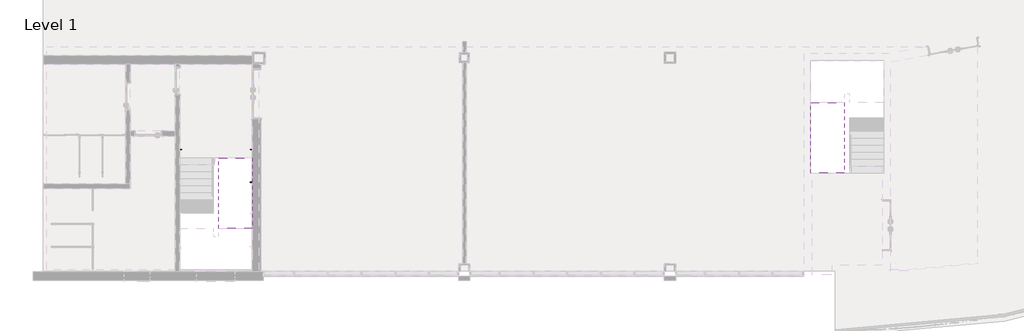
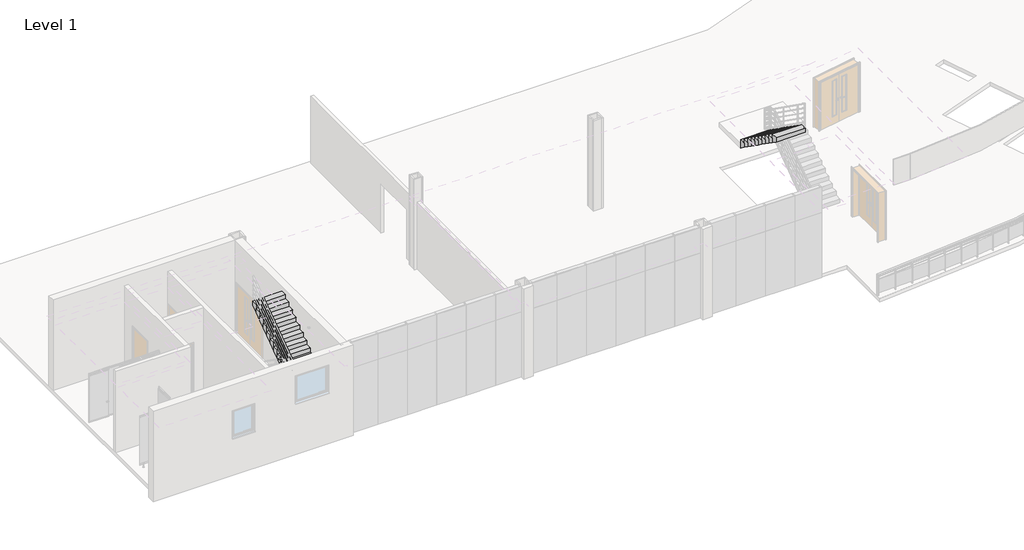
# One storey, part 10 of 12: 3 proxies, 2 stair flights.
"""IFC4 building model written with IfcOpenShell, lengths in millimetres."""

import ifcopenshell
import ifcopenshell.guid

model = None  # the IFC model being written
_history = None  # IfcOwnerHistory: only IFC2X3 demands one
_inside = {}  # id of a spatial element -> (the spatial element, [elements in it])
_under = {}  # id of a project, library or spatial element -> (it, [spatial elements below it])
_declared = {}  # id of a project -> (the project, [libraries it declares])
_typed = {}  # id of a type object -> (the type object, [elements of that type])
_made_of = {}  # id of a material, layer set ... -> (it, [elements and type objects made of it])


def new_model(schema):
    """Start an empty IFC model of exactly this schema.

    Asked for "IFC4X3", IfcOpenShell would pick the latest addendum, in which some entities
    have other attributes; the version numbers below select the first issue.
    IFC2X3 requires an IfcOwnerHistory on every rooted entity: one is made here for all.
    """
    global model, _history
    if schema == "IFC4X3":
        model = ifcopenshell.file(schema_version=(4, 3, 0, 0))
    else:
        model = ifcopenshell.file(schema=schema)
    _inside.clear()
    _under.clear()
    _declared.clear()
    _typed.clear()
    _made_of.clear()
    _history = None
    if model.schema == "IFC2X3":
        org = make("IfcOrganization", Name="unknown")
        user = make(
            "IfcPersonAndOrganization",
            ThePerson=make("IfcPerson", FamilyName="unknown"),
            TheOrganization=org,
        )
        app = make(
            "IfcApplication",
            ApplicationDeveloper=org,
            Version="unknown",
            ApplicationFullName="unknown",
            ApplicationIdentifier="unknown",
        )
        _history = make(
            "IfcOwnerHistory",
            OwningUser=user,
            OwningApplication=app,
            ChangeAction="ADDED",
            CreationDate=0,
        )
    return model


def make(cls, **values):
    """One entity of the class cls with the attributes given. An attribute that is None is left unset."""
    return model.create_entity(
        cls, **{name: value for name, value in values.items() if value is not None}
    )


def rooted(cls, **values):
    """An entity with a GlobalId (a new one), such as an element, a storey or a relation."""
    return make(cls, GlobalId=ifcopenshell.guid.new(), OwnerHistory=_history, **values)


def si_unit(unit_type, name, prefix=None):
    """IfcSIUnit, for example si_unit("LENGTHUNIT", "METRE", prefix="MILLI")."""
    return make("IfcSIUnit", UnitType=unit_type, Prefix=prefix, Name=name)


def assignment(units):
    """IfcUnitAssignment: the units of a project."""
    return None if units is None else make("IfcUnitAssignment", Units=units)


def point(xyz):
    """IfcCartesianPoint."""
    return None if xyz is None else make("IfcCartesianPoint", Coordinates=xyz)


def direction(xyz):
    """IfcDirection."""
    return None if xyz is None else make("IfcDirection", DirectionRatios=xyz)


def frame(location, z_axis=None, x_axis=None):
    """IfcAxis2Placement3D, a coordinate frame: its origin and axes. An axis left out is left unset."""
    return make(
        "IfcAxis2Placement3D",
        Location=point(location),
        Axis=direction(z_axis),
        RefDirection=direction(x_axis),
    )


def frame_2d(location, x_axis=None):
    """IfcAxis2Placement2D, a coordinate frame in the plane: its origin and x axis."""
    return make(
        "IfcAxis2Placement2D", Location=point(location), RefDirection=direction(x_axis)
    )


def origin():
    """The frame at (0, 0, 0) with its axes left unset."""
    return frame((0.0, 0.0, 0.0))


def origin_with_axes():
    """The frame at (0, 0, 0) with the z axis (0, 0, 1) and the x axis (1, 0, 0) written out."""
    return frame((0.0, 0.0, 0.0), z_axis=(0.0, 0.0, 1.0), x_axis=(1.0, 0.0, 0.0))


def place(relative_to, where):
    """IfcLocalPlacement: puts the frame where relative to a parent placement (None: the world)."""
    return make(
        "IfcLocalPlacement", PlacementRelTo=relative_to, RelativePlacement=where
    )


def context(
    kind, dimensions, precision=None, world=None, true_north=None, identifier=None
):
    """IfcGeometricRepresentationContext, for example the 3D "Model" context."""
    return make(
        "IfcGeometricRepresentationContext",
        ContextIdentifier=identifier,
        ContextType=kind,
        CoordinateSpaceDimension=dimensions,
        Precision=precision,
        WorldCoordinateSystem=world,
        TrueNorth=true_north,
    )


def project(units=None, contexts=None):
    """IfcProject with its units and contexts."""
    return rooted(
        "IfcProject",
        Name="project",
        RepresentationContexts=contexts,
        UnitsInContext=assignment(units),
    )


def spatial(cls, under=None, at=None, **own):
    """A site, building, storey or space (cls), placed at a placement, below another one or the project."""
    s = rooted(cls, ObjectPlacement=at, **own)
    if under is not None:
        _under.setdefault(under.id(), (under, []))[1].append(s)
    return s


def polyline(points):
    """IfcPolyline through the points."""
    return make("IfcPolyline", Points=[point(p) for p in points])


def circle_curve(where, radius):
    """IfcCircle in the frame where."""
    return make("IfcCircle", Position=where, Radius=radius)


def ellipse_curve(where, semi_axis1, semi_axis2):
    """IfcEllipse in the frame where."""
    return make(
        "IfcEllipse", Position=where, SemiAxis1=semi_axis1, SemiAxis2=semi_axis2
    )


def trimmed(basis, trim1, trim2, sense, master):
    """IfcTrimmedCurve: the piece of a basis curve between two trims."""
    return make(
        "IfcTrimmedCurve",
        BasisCurve=basis,
        Trim1=trim1,
        Trim2=trim2,
        SenseAgreement=sense,
        MasterRepresentation=master,
    )


def segment(curve, same_sense, transition):
    """IfcCompositeCurveSegment."""
    return make(
        "IfcCompositeCurveSegment",
        Transition=transition,
        SameSense=same_sense,
        ParentCurve=curve,
    )


def composite_curve(segments, self_intersect=None):
    """IfcCompositeCurve: segments joined end to end."""
    return make("IfcCompositeCurve", Segments=segments, SelfIntersect=self_intersect)


def outline(outer, holes=None, kind="AREA"):
    """IfcArbitraryClosedProfileDef: a profile drawn as a closed curve; with holes, ...WithVoids."""
    if holes is None:
        return make("IfcArbitraryClosedProfileDef", ProfileType=kind, OuterCurve=outer)
    return make(
        "IfcArbitraryProfileDefWithVoids",
        ProfileType=kind,
        OuterCurve=outer,
        InnerCurves=holes,
    )


def extrude(swept, where, along, depth):
    """IfcExtrudedAreaSolid: the profile swept, set in the frame where, extruded along a direction by depth."""
    return make(
        "IfcExtrudedAreaSolid",
        SweptArea=swept,
        Position=where,
        ExtrudedDirection=direction(along),
        Depth=depth,
    )


def faces_of(points, faces, orient=None, outer=None):
    """IfcFace entities. A face is a list of loops; a loop is a list of indices into points, from 0.

    orient and outer hold one flag for each loop. By default every Orientation is true, the
    first loop of a face is its IfcFaceOuterBound and the others are IfcFaceBound.
    """
    made = []
    for i, loops in enumerate(faces):
        bounds = []
        for j, loop in enumerate(loops):
            is_outer = j == 0 if outer is None else outer[i][j]
            bounds.append(
                make(
                    "IfcFaceOuterBound" if is_outer else "IfcFaceBound",
                    Bound=make("IfcPolyLoop", Polygon=[points[k] for k in loop]),
                    Orientation=True if orient is None else orient[i][j],
                )
            )
        made.append(make("IfcFace", Bounds=bounds))
    return made


def faceted_brep(points, faces, orient=None, outer=None, voids=None):
    """IfcFacetedBrep: a solid bounded by flat faces; with voids (closed shells), ...WithVoids."""
    shared = [point(p) for p in points]
    hull = make("IfcClosedShell", CfsFaces=faces_of(shared, faces, orient, outer))
    if voids is None:
        return make("IfcFacetedBrep", Outer=hull)
    return make(
        "IfcFacetedBrepWithVoids",
        Outer=hull,
        Voids=[
            make(cls, CfsFaces=faces_of(shared, fs, o, b)) for cls, fs, o, b in voids
        ],
    )


def shape(context_of_items, identifier, shape_type, items):
    """IfcShapeRepresentation: the items that make up one representation, for example the "Body"."""
    return make(
        "IfcShapeRepresentation",
        ContextOfItems=context_of_items,
        RepresentationIdentifier=identifier,
        RepresentationType=shape_type,
        Items=items,
    )


def source(mapping_origin, context_of_items, identifier, shape_type, items):
    """IfcRepresentationMap: a shape defined once, which mapped items show again and again."""
    return make(
        "IfcRepresentationMap",
        MappingOrigin=mapping_origin,
        MappedRepresentation=shape(context_of_items, identifier, shape_type, items),
    )


def transform(
    local_origin,
    x_axis=None,
    y_axis=None,
    z_axis=None,
    scale=None,
    scale2=None,
    scale3=None,
    uniform=True,
):
    """IfcCartesianTransformationOperator3D, or its non-uniform kind. x_axis, y_axis, z_axis: its Axis1, 2, 3."""
    if uniform:
        return make(
            "IfcCartesianTransformationOperator3D",
            Axis1=direction(x_axis),
            Axis2=direction(y_axis),
            LocalOrigin=point(local_origin),
            Scale=scale,
            Axis3=direction(z_axis),
        )
    return make(
        "IfcCartesianTransformationOperator3DnonUniform",
        Axis1=direction(x_axis),
        Axis2=direction(y_axis),
        LocalOrigin=point(local_origin),
        Scale=scale,
        Axis3=direction(z_axis),
        Scale2=scale2,
        Scale3=scale3,
    )


def mapped(mapping_source, mapping_target):
    """IfcMappedItem: shows the shape of a source again, moved by a transform."""
    return make(
        "IfcMappedItem", MappingSource=mapping_source, MappingTarget=mapping_target
    )


def made_of(thing, what):
    """Note that an element or type object is made of a material, layer set ...; save() writes the relation."""
    if what is not None:
        _made_of.setdefault(what.id(), (what, []))[1].append(thing)
    return thing


def element(
    cls,
    number,
    at=None,
    inside=None,
    cuts=None,
    type_object=None,
    material=None,
    context=None,
    identifier="Body",
    shape_type=None,
    held_by="IfcProductDefinitionShape",
    body=None,
    shapes=None,
    **own,
):
    """One element of the class cls, such as IfcWall. Its Tag is "e" and its number.

    at: its placement. inside: the storey or other place that contains it. cuts: it is an
    opening in that element (IfcRelVoidsElement). A single representation is given by context,
    identifier, shape_type and body (its items); several are given by shapes. held_by: the class
    of the entity that holds the representations. save() writes the other relations.
    """
    e = rooted(cls, Tag="e%d" % number, ObjectPlacement=at, **own)
    if body is not None:
        shapes = [shape(context, identifier, shape_type, body)]
    if shapes is not None:
        e.Representation = make(held_by, Representations=shapes)
    if inside is not None:
        _inside.setdefault(inside.id(), (inside, []))[1].append(e)
    if cuts is not None:
        rooted(
            "IfcRelVoidsElement", RelatingBuildingElement=cuts, RelatedOpeningElement=e
        )
    if type_object is not None:
        _typed.setdefault(type_object.id(), (type_object, []))[1].append(e)
    return made_of(e, material)


def aggregate(whole, parts):
    """IfcRelAggregates: a whole, such as a stair, and the parts it consists of."""
    return rooted("IfcRelAggregates", RelatingObject=whole, RelatedObjects=parts)


def save(model, path):
    """Write the relations noted so far, then the file.

    IfcRelAggregates (storeys below a building ...), IfcRelContainedInSpatialStructure (elements
    in a storey), IfcRelDefinesByType, IfcRelAssociatesMaterial and IfcRelDeclares: one each for
    every whole, place, type object, material and project.
    """
    for whole, parts in _under.values():
        aggregate(whole, parts)
    for where, things in _inside.values():
        rooted(
            "IfcRelContainedInSpatialStructure",
            RelatedElements=things,
            RelatingStructure=where,
        )
    for kind, things in _typed.values():
        rooted("IfcRelDefinesByType", RelatedObjects=things, RelatingType=kind)
    for what, things in _made_of.values():
        rooted("IfcRelAssociatesMaterial", RelatedObjects=things, RelatingMaterial=what)
    for by, libraries in _declared.values():
        rooted("IfcRelDeclares", RelatingContext=by, RelatedDefinitions=libraries)
    model.write(path)


def plane_surface(at):
    """IfcPlane: the flat surface through the origin of the frame at, square to its z axis."""
    return make("IfcPlane", Position=at)


def cylinder_surface(at, radius):
    """IfcCylindricalSurface: all points at the distance radius from the z axis of the frame at."""
    return make("IfcCylindricalSurface", Position=at, Radius=radius)


def revolved_surface(curve, axis_point, axis_direction):
    """IfcSurfaceOfRevolution: the curve turned about the line through axis_point along axis_direction."""
    return make(
        "IfcSurfaceOfRevolution",
        SweptCurve=make("IfcArbitraryOpenProfileDef", ProfileType="CURVE", Curve=curve),
        AxisPosition=make("IfcAxis1Placement", Location=point(axis_point), Axis=direction(axis_direction)),
    )


def advanced_brep(points, edges, surfaces, faces):
    """IfcAdvancedBrep: a solid bounded by faces that lie on surfaces and meet in shared edges.

    An edge is (start, end): straight between two places in points (the first is 0);
    or (start, end, curve); or (start, end, curve, False) where it runs against its curve.
    A face is (place in surfaces, loops), or (place, loops, False) where it looks against
    its surface's normal. A loop lists edges by number (the first is 1), with a minus sign
    where the edge is run from its end to its start. The first loop is the outer one.
    """
    corners = [point(p) for p in points]
    vertices = [make("IfcVertexPoint", VertexGeometry=c) for c in corners]
    made = []
    for start, end, *more in edges:
        made.append(
            make(
                "IfcEdgeCurve",
                EdgeStart=vertices[start],
                EdgeEnd=vertices[end],
                EdgeGeometry=more[0] if more else make("IfcPolyline", Points=[corners[start], corners[end]]),
                SameSense=more[1] if len(more) > 1 else True,
            )
        )
    hull = []
    for where, loops, *sense in faces:
        bounds = []
        for j, loop in enumerate(loops):
            ring = [make("IfcOrientedEdge", EdgeElement=made[abs(k) - 1], Orientation=k > 0) for k in loop]
            bounds.append(
                make(
                    "IfcFaceOuterBound" if j == 0 else "IfcFaceBound",
                    Bound=make("IfcEdgeLoop", EdgeList=ring),
                    Orientation=True,
                )
            )
        hull.append(make("IfcAdvancedFace", Bounds=bounds, FaceSurface=surfaces[where], SameSense=sense[0] if sense else True))
    return make("IfcAdvancedBrep", Outer=make("IfcClosedShell", CfsFaces=hull))


def support_metal_circular_support_metal_circular_016e83f0(model_context):
    return source(origin(), model_context, "Body", "SolidModel", [
        advanced_brep(
        [(-6.0, 0.0, 0.0), (6.0, 0.0, 0.0), (-6.0, 0.0, -38.0), (6.0, 0.0, -38.0), (6.0, 12.0, -50.0), (-6.0, 12.0, -50.0), (-6.0, 63.0, -50.0), (6.0, 63.0, -50.0)],
        [
            (0, 1, circle_curve(origin_with_axes(), 6.0)),
            (1, 0, circle_curve(origin_with_axes(), 6.0)),
            (0, 2),
            (2, 3, circle_curve(frame((0.0, 0.0, -38.0), z_axis=(0.0, 0.0, 1.0), x_axis=(1.0, 0.0, 0.0)), 6.0)),
            (3, 1),
            (3, 2, circle_curve(frame((0.0, 0.0, -38.0), z_axis=(0.0, 0.0, 1.0), x_axis=(1.0, 0.0, 0.0)), 6.0)),
            (4, 3, circle_curve(frame((6.0, 12.0, -38.0), z_axis=(-1.0, 0.0, 0.0), x_axis=(0.0, -1.0, 0.0)), 12.0)),
            (2, 5, circle_curve(frame((-6.0, 12.0, -38.0), z_axis=(1.0, 0.0, 0.0), x_axis=(0.0, -1.0, 0.0)), 12.0)),
            (5, 4, circle_curve(frame((0.0, 12.0, -50.0), z_axis=(0.0, -1.0, 0.0), x_axis=(1.0, 0.0, 0.0)), 6.0)),
            (4, 5, circle_curve(frame((0.0, 12.0, -50.0), z_axis=(0.0, -1.0, 0.0), x_axis=(1.0, 0.0, 0.0)), 6.0)),
            (6, 7, circle_curve(frame((0.0, 63.0, -50.0), z_axis=(0.0, 1.0, 0.0), x_axis=(1.0, 0.0, 0.0)), 6.0)),
            (7, 6, circle_curve(frame((0.0, 63.0, -50.0), z_axis=(0.0, 1.0, 0.0), x_axis=(1.0, 0.0, 0.0)), 6.0)),
            (5, 6),
            (7, 4),
        ],
        [
            plane_surface(origin_with_axes()),
            cylinder_surface(origin_with_axes(), 6.0),
            revolved_surface(trimmed(ellipse_curve(frame((0.0, 0.0, -38.0), z_axis=(0.0, 0.0, 1.0), x_axis=(1.0, 0.0, 0.0)), 6.0, 6.0), [point((-6.0, 0.0, -38.0))], [point((6.0, 0.0, -38.0))], True, "CARTESIAN"), (0.0, 12.0, -38.0), (1.0, 0.0, 0.0)),
            revolved_surface(trimmed(ellipse_curve(frame((0.0, 0.0, -38.0), z_axis=(0.0, 0.0, 1.0), x_axis=(1.0, 0.0, 0.0)), 6.0, 6.0), [point((6.0, 0.0, -38.0))], [point((-6.0, 0.0, -38.0))], True, "CARTESIAN"), (0.0, 12.0, -38.0), (1.0, 0.0, 0.0)),
            plane_surface(frame((0.0, 63.0, -50.0), z_axis=(0.0, 1.0, 0.0), x_axis=(1.0, 0.0, 0.0))),
            cylinder_surface(frame((0.0, 12.0, -50.0), z_axis=(0.0, -1.0, 0.0), x_axis=(1.0, 0.0, 0.0)), 6.0),
        ],
        [
            (0, [[1, 2]]),
            (1, [[-1, 3, 4, 5]]),
            (1, [[-2, -5, 6, -3]]),
            (2, [[7, -4, 8, 9]]),
            (3, [[-8, -6, -7, 10]]),
            (4, [[11, 12]]),
            (5, [[-9, 13, -12, 14]]),
            (5, [[-10, -14, -11, -13]]),
        ],
    ),
        extrude(outline(composite_curve([segment(trimmed(circle_curve(frame_2d((-50.0, 0.0)), 25.0), [point((-50.0, -25.0))], [point((-50.0, 25.0))], False, "CARTESIAN"), True, "CONTINUOUS"), segment(trimmed(circle_curve(frame_2d((-50.0, 0.0)), 25.0), [point((-50.0, 25.0))], [point((-50.0, -25.0))], False, "CARTESIAN"), True, "CONTINUOUS")], self_intersect=False)), frame((0.0, 63.0, 0.0), z_axis=(0.0, 1.0, 0.0), x_axis=(0.0, 0.0, 1.0)), (0.0, 0.0, 1.0), 12.0),
    ])


model = new_model("IFC4")

# Units and contexts
model_context = context("Model", 3, world=origin())
ifc_project = project(units=[si_unit("LENGTHUNIT", "METRE", prefix="MILLI")], contexts=[model_context])

# Site, building, storey
site = spatial("IfcSite", under=ifc_project)
building = spatial("IfcBuilding", under=site)
storey = spatial("IfcBuildingStorey", under=building, Name="Level 1", Elevation=3900.0)

# Proxies
placement = place(None, origin())
support_metal_circular_support_metal_circular_shape = support_metal_circular_support_metal_circular_016e83f0(model_context)
element("IfcBuildingElementProxy", 1, Name="Support - Metal - Circular : Support - Metal - Circular", ObjectType="Support - Metal - Circular : Support - Metal - Circular", at=placement, inside=storey, context=model_context, shape_type="MappedRepresentation", body=[
    mapped(support_metal_circular_support_metal_circular_shape, transform((5322.6000025, 4600.0, 4959.3919555), x_axis=(0.0, 1.0, 0.0), y_axis=(-1.0, 0.0, 0.0), z_axis=(0.0, 0.0, 1.0))),
])
element("IfcBuildingElementProxy", 2, Name="Support - Metal - Circular : Support - Metal - Circular", ObjectType="Support - Metal - Circular : Support - Metal - Circular", at=placement, inside=storey, context=model_context, shape_type="MappedRepresentation", body=[
    mapped(support_metal_circular_support_metal_circular_shape, transform((7761.8000023, 3437.7155261, 4170.6811467), x_axis=(0.0, -1.0, 0.0), y_axis=(1.0, 0.0, 0.0), z_axis=(0.0, 0.0, 1.0))),
])
element("IfcBuildingElementProxy", 3, Name="Support - Metal - Circular : Support - Metal - Circular", ObjectType="Support - Metal - Circular : Support - Metal - Circular", at=placement, inside=storey, context=model_context, shape_type="MappedRepresentation", body=[
    mapped(support_metal_circular_support_metal_circular_shape, transform((7761.8000023, 4600.0, 4782.1192282), x_axis=(0.0, -1.0, 0.0), y_axis=(1.0, 0.0, 0.0), z_axis=(0.0, 0.0, 1.0))),
])

# Stair flights
element("IfcStairFlight", 4, ObjectType="1mm_Tread-150mm_Depth", at=placement, inside=storey, context=model_context, shape_type="SolidModel", body=[
    faceted_brep([(6637.2000026, 2050.0, 6026.2727273), (6637.2000026, 1800.0, 6026.2727273), (7837.2000024, 1800.0, 6026.2727273), (7837.2000024, 2050.0, 6026.2727273), (6637.2000026, 2050.0, 5842.3890055), (6637.2000026, 1800.0, 5665.1162782), (6637.2000026, 1800.0, 5849.0), (7837.2000024, 1800.0, 5665.1162782), (7837.2000024, 1800.0, 5849.0), (7837.2000024, 2050.0, 5842.3890055), (6637.2000026, 2300.0, 6203.5454545), (6637.2000026, 2050.0, 6203.5454545), (7837.2000024, 2050.0, 6203.5454545), (7837.2000024, 2300.0, 6203.5454545), (6637.2000026, 2300.0, 6019.6617328), (7837.2000024, 2300.0, 6019.6617328), (6637.2000026, 2550.0, 6380.8181818), (6637.2000026, 2300.0, 6380.8181818), (7837.2000024, 2300.0, 6380.8181818), (7837.2000024, 2550.0, 6380.8181818), (6637.2000026, 2550.0, 6196.93446), (7837.2000024, 2550.0, 6196.93446), (6637.2000026, 2800.0, 6558.0909091), (6637.2000026, 2550.0, 6558.0909091), (7837.2000024, 2550.0, 6558.0909091), (7837.2000024, 2800.0, 6558.0909091), (6637.2000026, 2800.0, 6374.2071873), (7837.2000024, 2800.0, 6374.2071873), (6637.2000026, 3050.0, 6735.3636364), (6637.2000026, 2800.0, 6735.3636364), (7837.2000024, 2800.0, 6735.3636364), (7837.2000024, 3050.0, 6735.3636364), (6637.2000026, 3050.0, 6551.4799146), (7837.2000024, 3050.0, 6551.4799146), (6637.2000026, 3300.0, 6912.6363636), (6637.2000026, 3050.0, 6912.6363636), (7837.2000024, 3050.0, 6912.6363636), (7837.2000024, 3300.0, 6912.6363636), (6637.2000026, 3300.0, 6728.7526418), (7837.2000024, 3300.0, 6728.7526418), (6637.2000026, 3550.0, 7089.9090909), (6637.2000026, 3300.0, 7089.9090909), (7837.2000024, 3300.0, 7089.9090909), (7837.2000024, 3550.0, 7089.9090909), (6637.2000026, 3550.0, 6906.0253691), (7837.2000024, 3550.0, 6906.0253691), (6637.2000026, 3800.0, 7267.1818182), (6637.2000026, 3550.0, 7267.1818182), (7837.2000024, 3550.0, 7267.1818182), (7837.2000024, 3800.0, 7267.1818182), (6637.2000026, 3800.0, 7083.2980964), (7837.2000024, 3800.0, 7083.2980964), (6637.2000026, 4050.0, 7444.4545455), (6637.2000026, 3800.0, 7444.4545455), (7837.2000024, 3800.0, 7444.4545455), (7837.2000024, 4050.0, 7444.4545455), (6637.2000026, 4050.0, 7260.5708237), (7837.2000024, 4050.0, 7260.5708237), (6637.2000026, 4300.0, 7437.8435509), (7837.2000024, 4300.0, 7437.8435509), (6637.2000026, 4300.0, 7621.7272727), (6637.2000026, 4050.0, 7621.7272727), (7837.2000024, 4050.0, 7621.7272727), (7837.2000024, 4300.0, 7621.7272727)], [[[0, 1, 2, 3]], [[1, 0, 4, 5, 6]], [[2, 1, 6, 5, 7, 8]], [[3, 2, 8, 7, 9]], [[10, 11, 12, 13]], [[11, 10, 14, 4, 0]], [[12, 11, 0, 3]], [[13, 12, 3, 9, 15]], [[16, 17, 18, 19]], [[17, 16, 20, 14, 10]], [[18, 17, 10, 13]], [[19, 18, 13, 15, 21]], [[22, 23, 24, 25]], [[23, 22, 26, 20, 16]], [[24, 23, 16, 19]], [[25, 24, 19, 21, 27]], [[28, 29, 30, 31]], [[29, 28, 32, 26, 22]], [[30, 29, 22, 25]], [[31, 30, 25, 27, 33]], [[34, 35, 36, 37]], [[35, 34, 38, 32, 28]], [[36, 35, 28, 31]], [[37, 36, 31, 33, 39]], [[40, 41, 42, 43]], [[41, 40, 44, 38, 34]], [[42, 41, 34, 37]], [[43, 42, 37, 39, 45]], [[46, 47, 48, 49]], [[47, 46, 50, 44, 40]], [[48, 47, 40, 43]], [[49, 48, 43, 45, 51]], [[52, 53, 54, 55]], [[53, 52, 56, 50, 46]], [[54, 53, 46, 49]], [[55, 54, 49, 51, 57]], [[5, 4, 14, 20, 26, 32, 38, 44, 50, 56, 58, 59, 57, 51, 45, 39, 33, 27, 21, 15, 9, 7]], [[60, 61, 62, 63]], [[61, 60, 58, 56, 52]], [[62, 61, 52, 55]], [[63, 62, 55, 57, 59]], [[60, 63, 59, 58]]]),
    extrude(outline(polyline([(6637.2000026, 2050.0), (7837.2000024, 2050.0), (7837.2000024, 1800.0), (6637.2000026, 1800.0), (6637.2000026, 2050.0)])), frame((0.0, 0.0, 6026.2727273), z_axis=(0.0, 0.0, 1.0), x_axis=(1.0, 0.0, 0.0)), (0.0, 0.0, 1.0), 1.0),
    extrude(outline(polyline([(6637.2000026, 2300.0), (7837.2000024, 2300.0), (7837.2000024, 2050.0), (6637.2000026, 2050.0), (6637.2000026, 2300.0)])), frame((0.0, 0.0, 6203.5454545), z_axis=(0.0, 0.0, 1.0), x_axis=(1.0, 0.0, 0.0)), (0.0, 0.0, 1.0), 1.0),
    extrude(outline(polyline([(6637.2000026, 2550.0), (7837.2000024, 2550.0), (7837.2000024, 2300.0), (6637.2000026, 2300.0), (6637.2000026, 2550.0)])), frame((0.0, 0.0, 6380.8181818), z_axis=(0.0, 0.0, 1.0), x_axis=(1.0, 0.0, 0.0)), (0.0, 0.0, 1.0), 1.0),
    extrude(outline(polyline([(6637.2000026, 2800.0), (7837.2000024, 2800.0), (7837.2000024, 2550.0), (6637.2000026, 2550.0), (6637.2000026, 2800.0)])), frame((0.0, 0.0, 6558.0909091), z_axis=(0.0, 0.0, 1.0), x_axis=(1.0, 0.0, 0.0)), (0.0, 0.0, 1.0), 1.0),
    extrude(outline(polyline([(6637.2000026, 3050.0), (7837.2000024, 3050.0), (7837.2000024, 2800.0), (6637.2000026, 2800.0), (6637.2000026, 3050.0)])), frame((0.0, 0.0, 6735.3636364), z_axis=(0.0, 0.0, 1.0), x_axis=(1.0, 0.0, 0.0)), (0.0, 0.0, 1.0), 1.0),
    extrude(outline(polyline([(6637.2000026, 3300.0), (7837.2000024, 3300.0), (7837.2000024, 3050.0), (6637.2000026, 3050.0), (6637.2000026, 3300.0)])), frame((0.0, 0.0, 6912.6363636), z_axis=(0.0, 0.0, 1.0), x_axis=(1.0, 0.0, 0.0)), (0.0, 0.0, 1.0), 1.0),
    extrude(outline(polyline([(6637.2000026, 3550.0), (7837.2000024, 3550.0), (7837.2000024, 3300.0), (6637.2000026, 3300.0), (6637.2000026, 3550.0)])), frame((0.0, 0.0, 7089.9090909), z_axis=(0.0, 0.0, 1.0), x_axis=(1.0, 0.0, 0.0)), (0.0, 0.0, 1.0), 1.0),
    extrude(outline(polyline([(6637.2000026, 3800.0), (7837.2000024, 3800.0), (7837.2000024, 3550.0), (6637.2000026, 3550.0), (6637.2000026, 3800.0)])), frame((0.0, 0.0, 7267.1818182), z_axis=(0.0, 0.0, 1.0), x_axis=(1.0, 0.0, 0.0)), (0.0, 0.0, 1.0), 1.0),
    extrude(outline(polyline([(6637.2000026, 4050.0), (7837.2000024, 4050.0), (7837.2000024, 3800.0), (6637.2000026, 3800.0), (6637.2000026, 4050.0)])), frame((0.0, 0.0, 7444.4545455), z_axis=(0.0, 0.0, 1.0), x_axis=(1.0, 0.0, 0.0)), (0.0, 0.0, 1.0), 1.0),
    extrude(outline(polyline([(6637.2000026, 4300.0), (7837.2000024, 4300.0), (7837.2000024, 4050.0), (6637.2000026, 4050.0), (6637.2000026, 4300.0)])), frame((0.0, 0.0, 7621.7272727), z_axis=(0.0, 0.0, 1.0), x_axis=(1.0, 0.0, 0.0)), (0.0, 0.0, 1.0), 1.0),
])
element("IfcStairFlight", 5, ObjectType="1mm_Tread-150mm_Depth", at=placement, inside=storey, context=model_context, shape_type="SolidModel", body=[
    faceted_brep([(28862.2000029, 6013.2000006, 6026.2727273), (28862.2000029, 6263.2000006, 6026.2727273), (27662.2000031, 6263.2000006, 6026.2727273), (27662.2000031, 6013.2000006, 6026.2727273), (28862.2000029, 6013.2000006, 5842.3890055), (28862.2000029, 6263.2000006, 5665.1162782), (28862.2000029, 6263.2000006, 5849.0), (27662.2000031, 6263.2000006, 5665.1162782), (27662.2000031, 6263.2000006, 5849.0), (27662.2000031, 6013.2000006, 5842.3890055), (28862.2000029, 5763.2000006, 6203.5454545), (28862.2000029, 6013.2000006, 6203.5454545), (27662.2000031, 6013.2000006, 6203.5454545), (27662.2000031, 5763.2000006, 6203.5454545), (28862.2000029, 5763.2000006, 6019.6617328), (27662.2000031, 5763.2000006, 6019.6617328), (28862.2000029, 5513.2000006, 6380.8181818), (28862.2000029, 5763.2000006, 6380.8181818), (27662.2000031, 5763.2000006, 6380.8181818), (27662.2000031, 5513.2000006, 6380.8181818), (28862.2000029, 5513.2000006, 6196.93446), (27662.2000031, 5513.2000006, 6196.93446), (28862.2000029, 5263.2000006, 6558.0909091), (28862.2000029, 5513.2000006, 6558.0909091), (27662.2000031, 5513.2000006, 6558.0909091), (27662.2000031, 5263.2000006, 6558.0909091), (28862.2000029, 5263.2000006, 6374.2071873), (27662.2000031, 5263.2000006, 6374.2071873), (28862.2000029, 5013.2000006, 6735.3636364), (28862.2000029, 5263.2000006, 6735.3636364), (27662.2000031, 5263.2000006, 6735.3636364), (27662.2000031, 5013.2000006, 6735.3636364), (28862.2000029, 5013.2000006, 6551.4799146), (27662.2000031, 5013.2000006, 6551.4799146), (28862.2000029, 4763.2000006, 6912.6363636), (28862.2000029, 5013.2000006, 6912.6363636), (27662.2000031, 5013.2000006, 6912.6363636), (27662.2000031, 4763.2000006, 6912.6363636), (28862.2000029, 4763.2000006, 6728.7526418), (27662.2000031, 4763.2000006, 6728.7526418), (28862.2000029, 4513.2000006, 7089.9090909), (28862.2000029, 4763.2000006, 7089.9090909), (27662.2000031, 4763.2000006, 7089.9090909), (27662.2000031, 4513.2000006, 7089.9090909), (28862.2000029, 4513.2000006, 6906.0253691), (27662.2000031, 4513.2000006, 6906.0253691), (28862.2000029, 4263.2000006, 7267.1818182), (28862.2000029, 4513.2000006, 7267.1818182), (27662.2000031, 4513.2000006, 7267.1818182), (27662.2000031, 4263.2000006, 7267.1818182), (28862.2000029, 4263.2000006, 7083.2980964), (27662.2000031, 4263.2000006, 7083.2980964), (28862.2000029, 4013.2000006, 7444.4545455), (28862.2000029, 4263.2000006, 7444.4545455), (27662.2000031, 4263.2000006, 7444.4545455), (27662.2000031, 4013.2000006, 7444.4545455), (28862.2000029, 4013.2000006, 7260.5708237), (27662.2000031, 4013.2000006, 7260.5708237), (28862.2000029, 3763.2000006, 7437.8435509), (27662.2000031, 3763.2000006, 7437.8435509), (28862.2000029, 3763.2000006, 7621.7272727), (28862.2000029, 4013.2000006, 7621.7272727), (27662.2000031, 4013.2000006, 7621.7272727), (27662.2000031, 3763.2000006, 7621.7272727)], [[[0, 1, 2, 3]], [[1, 0, 4, 5, 6]], [[2, 1, 6, 5, 7, 8]], [[3, 2, 8, 7, 9]], [[10, 11, 12, 13]], [[11, 10, 14, 4, 0]], [[12, 11, 0, 3]], [[13, 12, 3, 9, 15]], [[16, 17, 18, 19]], [[17, 16, 20, 14, 10]], [[18, 17, 10, 13]], [[19, 18, 13, 15, 21]], [[22, 23, 24, 25]], [[23, 22, 26, 20, 16]], [[24, 23, 16, 19]], [[25, 24, 19, 21, 27]], [[28, 29, 30, 31]], [[29, 28, 32, 26, 22]], [[30, 29, 22, 25]], [[31, 30, 25, 27, 33]], [[34, 35, 36, 37]], [[35, 34, 38, 32, 28]], [[36, 35, 28, 31]], [[37, 36, 31, 33, 39]], [[40, 41, 42, 43]], [[41, 40, 44, 38, 34]], [[42, 41, 34, 37]], [[43, 42, 37, 39, 45]], [[46, 47, 48, 49]], [[47, 46, 50, 44, 40]], [[48, 47, 40, 43]], [[49, 48, 43, 45, 51]], [[52, 53, 54, 55]], [[53, 52, 56, 50, 46]], [[54, 53, 46, 49]], [[55, 54, 49, 51, 57]], [[5, 4, 14, 20, 26, 32, 38, 44, 50, 56, 58, 59, 57, 51, 45, 39, 33, 27, 21, 15, 9, 7]], [[60, 61, 62, 63]], [[61, 60, 58, 56, 52]], [[62, 61, 52, 55]], [[63, 62, 55, 57, 59]], [[60, 63, 59, 58]]]),
    extrude(outline(polyline([(28862.2000029, 6013.2000006), (27662.2000031, 6013.2000006), (27662.2000031, 6263.2000006), (28862.2000029, 6263.2000006), (28862.2000029, 6013.2000006)])), frame((0.0, 0.0, 6026.2727273), z_axis=(0.0, 0.0, 1.0), x_axis=(1.0, 0.0, 0.0)), (0.0, 0.0, 1.0), 1.0),
    extrude(outline(polyline([(28862.2000029, 5763.2000006), (27662.2000031, 5763.2000006), (27662.2000031, 6013.2000006), (28862.2000029, 6013.2000006), (28862.2000029, 5763.2000006)])), frame((0.0, 0.0, 6203.5454545), z_axis=(0.0, 0.0, 1.0), x_axis=(1.0, 0.0, 0.0)), (0.0, 0.0, 1.0), 1.0),
    extrude(outline(polyline([(28862.2000029, 5513.2000006), (27662.2000031, 5513.2000006), (27662.2000031, 5763.2000006), (28862.2000029, 5763.2000006), (28862.2000029, 5513.2000006)])), frame((0.0, 0.0, 6380.8181818), z_axis=(0.0, 0.0, 1.0), x_axis=(1.0, 0.0, 0.0)), (0.0, 0.0, 1.0), 1.0),
    extrude(outline(polyline([(28862.2000029, 5263.2000006), (27662.2000031, 5263.2000006), (27662.2000031, 5513.2000006), (28862.2000029, 5513.2000006), (28862.2000029, 5263.2000006)])), frame((0.0, 0.0, 6558.0909091), z_axis=(0.0, 0.0, 1.0), x_axis=(1.0, 0.0, 0.0)), (0.0, 0.0, 1.0), 1.0),
    extrude(outline(polyline([(28862.2000029, 5013.2000006), (27662.2000031, 5013.2000006), (27662.2000031, 5263.2000006), (28862.2000029, 5263.2000006), (28862.2000029, 5013.2000006)])), frame((0.0, 0.0, 6735.3636364), z_axis=(0.0, 0.0, 1.0), x_axis=(1.0, 0.0, 0.0)), (0.0, 0.0, 1.0), 1.0),
    extrude(outline(polyline([(28862.2000029, 4763.2000006), (27662.2000031, 4763.2000006), (27662.2000031, 5013.2000006), (28862.2000029, 5013.2000006), (28862.2000029, 4763.2000006)])), frame((0.0, 0.0, 6912.6363636), z_axis=(0.0, 0.0, 1.0), x_axis=(1.0, 0.0, 0.0)), (0.0, 0.0, 1.0), 1.0),
    extrude(outline(polyline([(28862.2000029, 4513.2000006), (27662.2000031, 4513.2000006), (27662.2000031, 4763.2000006), (28862.2000029, 4763.2000006), (28862.2000029, 4513.2000006)])), frame((0.0, 0.0, 7089.9090909), z_axis=(0.0, 0.0, 1.0), x_axis=(1.0, 0.0, 0.0)), (0.0, 0.0, 1.0), 1.0),
    extrude(outline(polyline([(28862.2000029, 4263.2000006), (27662.2000031, 4263.2000006), (27662.2000031, 4513.2000006), (28862.2000029, 4513.2000006), (28862.2000029, 4263.2000006)])), frame((0.0, 0.0, 7267.1818182), z_axis=(0.0, 0.0, 1.0), x_axis=(1.0, 0.0, 0.0)), (0.0, 0.0, 1.0), 1.0),
    extrude(outline(polyline([(28862.2000029, 4013.2000006), (27662.2000031, 4013.2000006), (27662.2000031, 4263.2000006), (28862.2000029, 4263.2000006), (28862.2000029, 4013.2000006)])), frame((0.0, 0.0, 7444.4545455), z_axis=(0.0, 0.0, 1.0), x_axis=(1.0, 0.0, 0.0)), (0.0, 0.0, 1.0), 1.0),
    extrude(outline(polyline([(28862.2000029, 3763.2000006), (27662.2000031, 3763.2000006), (27662.2000031, 4013.2000006), (28862.2000029, 4013.2000006), (28862.2000029, 3763.2000006)])), frame((0.0, 0.0, 7621.7272727), z_axis=(0.0, 0.0, 1.0), x_axis=(1.0, 0.0, 0.0)), (0.0, 0.0, 1.0), 1.0),
])

save(model, "model.ifc")
